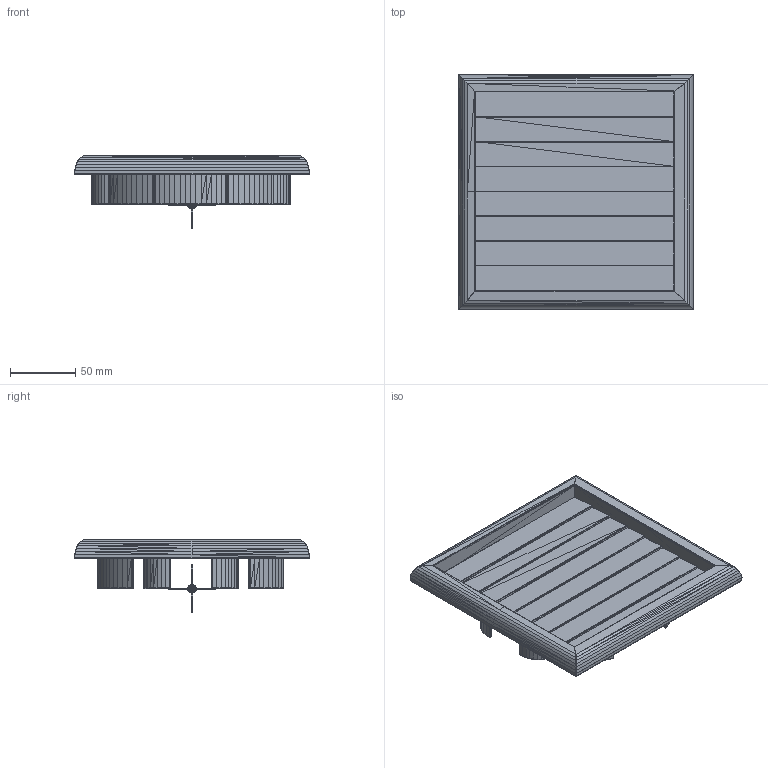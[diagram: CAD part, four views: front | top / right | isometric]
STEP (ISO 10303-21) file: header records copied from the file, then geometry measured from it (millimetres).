
FILE_DESCRIPTION(('FreeCAD Model'),'2;1');
FILE_NAME('Open CASCADE Shape Model','2024-04-12T18:07:56',('Author'),( ''),'Open CASCADE STEP processor 7.6','FreeCAD','Unknown');
FILE_SCHEMA(('AUTOMOTIVE_DESIGN { 1 0 10303 214 1 1 1 1 }'));
Length unit declared in the file: millimetre
Products named in the file (31): Unnamed; Air_Vent_002 (Solid); _Cross_f_002 (Solid); Object001_002 (Solid); Object002_002 (Solid); Object003_002 (Solid); Object004_002 (Solid); Object005_002 (Solid); Object006_002 (Solid); Object007_002 (Solid); Object008_002 (Solid); Object009_002 (Solid); Object010_002 (Solid); Object011_002 (Solid); Object012_002 (Solid); Object013_002 (Solid); Object014_002 (Solid); Object015_002 (Solid); Object016_002 (Solid); Object017_002 (Solid); Object018_002 (Solid); Object019_002 (Solid); Object020_002 (Solid); Object021_002 (Solid); Object022_002 (Solid); Object023_002 (Solid); Object024_002 (Solid); Object025_002 (Solid); Object026_002 (Solid); Object027_002 (Solid); Object028_002 (Solid)
Assembly tree (30 placements, depth 2):
  Unnamed
    Air_Vent_002 (Solid)
    _Cross_f_002 (Solid)
    Object001_002 (Solid)
    Object002_002 (Solid)
    Object003_002 (Solid)
    Object004_002 (Solid)
    Object005_002 (Solid)
    Object006_002 (Solid)
    Object007_002 (Solid)
    Object008_002 (Solid)
    Object009_002 (Solid)
    Object010_002 (Solid)
    Object011_002 (Solid)
    Object012_002 (Solid)
    Object013_002 (Solid)
    Object014_002 (Solid)
    Object015_002 (Solid)
    Object016_002 (Solid)
    Object017_002 (Solid)
    Object018_002 (Solid)
    Object019_002 (Solid)
    Object020_002 (Solid)
    Object021_002 (Solid)
    Object022_002 (Solid)
    Object023_002 (Solid)
    Object024_002 (Solid)
    Object025_002 (Solid)
    Object026_002 (Solid)
    Object027_002 (Solid)
    Object028_002 (Solid)
Bounding box: 180 x 180 x 55.85 mm (x, y, z)
Volume: 114764.5 mm3; surface area: 167594.6 mm2
Topology: 30 solids, 30 shells, 8170 faces, 13239 edges, 5128 vertices
Faces by surface type: plane 8170
Entity records: 169209 total; most frequent: DIRECTION 29641, CARTESIAN_POINT 26568, ORIENTED_EDGE 26478, EDGE_CURVE 13239, LINE 13239, VECTOR 13239, AXIS2_PLACEMENT_3D 8201, FACE_BOUND 8171
